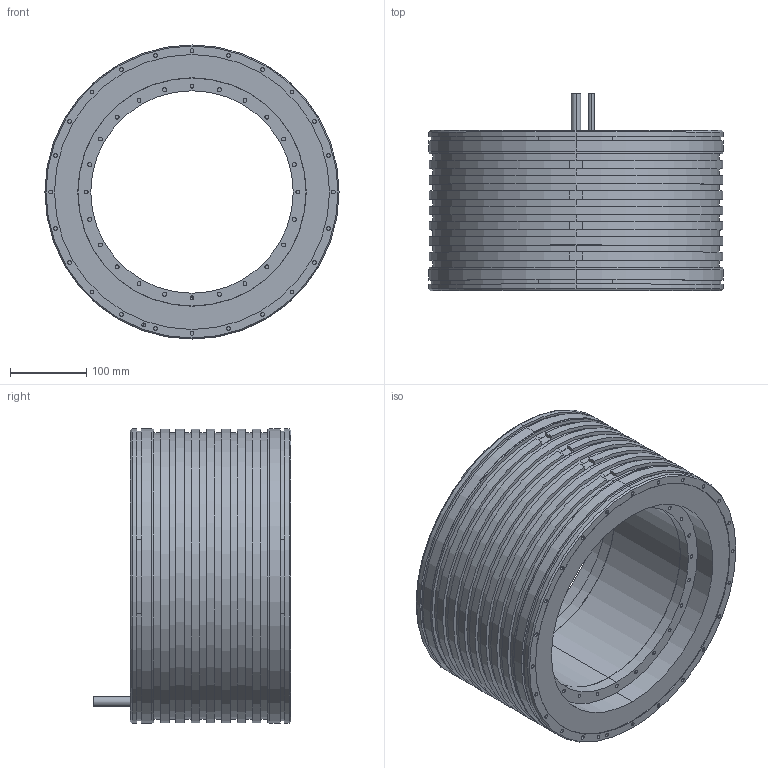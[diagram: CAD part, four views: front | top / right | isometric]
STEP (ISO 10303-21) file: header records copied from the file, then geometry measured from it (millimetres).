
FILE_DESCRIPTION (( 'STEP AP203' ), '1' );
FILE_NAME ('TM-2-AF.STEP', '2020-10-20T05:57:08', ( '' ), ( '' ), 'SwSTEP 2.0', 'SolidWorks 2015', '' );
FILE_SCHEMA (( 'CONFIG_CONTROL_DESIGN' ));
Length unit declared in the file: millimetre
Products named in the file (3): TM-2-AX_rotor_TM-2-AF_rotor; TM-2-AX_stator_TM-2-AF_stator; TM-2-AF
Assembly tree (2 placements, depth 2):
  TM-2-AF
    TM-2-AX_stator_TM-2-AF_stator
    TM-2-AX_rotor_TM-2-AF_rotor
Bounding box: 385 x 259 x 385 mm (x, y, z)
Volume: 11333639.7 mm3; surface area: 968779.1 mm2
Topology: 2 solids, 2 shells, 418 faces, 876 edges, 564 vertices
Faces by surface type: cylinder 257, plane 145, cone 16
Entity records: 11611 total; most frequent: DIRECTION 2232, CARTESIAN_POINT 1855, ORIENTED_EDGE 1736, AXIS2_PLACEMENT_3D 941, EDGE_CURVE 868, VERTEX_POINT 564, EDGE_LOOP 532, CIRCLE 518
